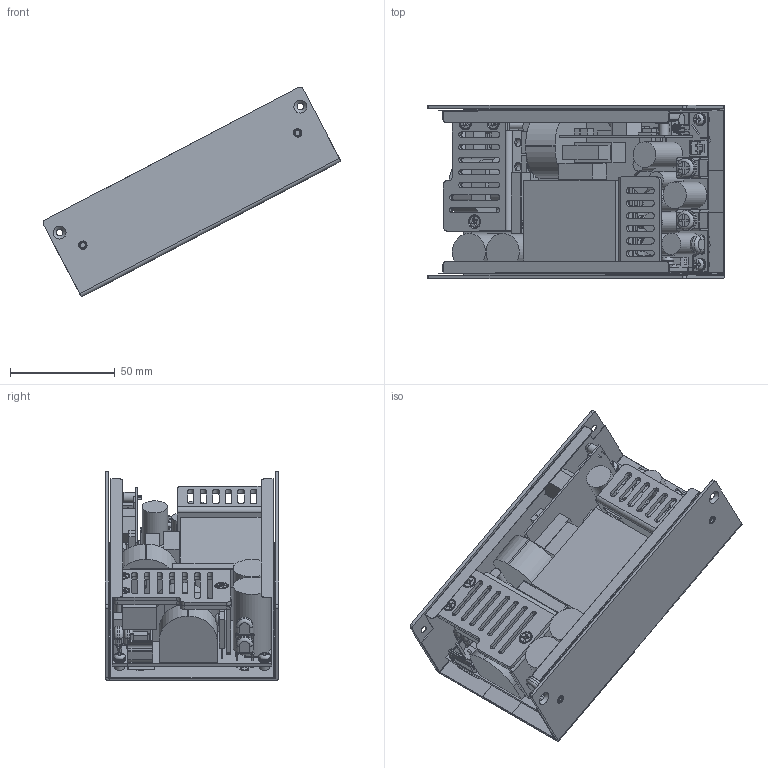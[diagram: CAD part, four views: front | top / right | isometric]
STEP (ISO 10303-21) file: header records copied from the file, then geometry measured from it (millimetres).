
FILE_DESCRIPTION(/* description */ (''),/* implementation_level */ '2;1');
FILE_NAME(/* name */ 'D:\Inventor\3D FILE\MQF500U.stp',/* time_stamp */ '2020-03-13T11:51:03+08:00',/* author */ ('peter'),/* organization */ (''),/* preprocessor_version */ 'ST-DEVELOPER v15.2',/* originating_system */ 'Autodesk Inventor 2014',/* authorisation */ '');
FILE_SCHEMA (('AUTOMOTIVE_DESIGN { 1 0 10303 214 3 1 1 }'));
Products named in the file (45): U CASE 1; M3 x 4r5 mm; M3 - 1r5 mm; PCB - MQF500; R378MQF50001; R378MQF50003; TO-220; TO-220FP; BD1; PH-15; SCREW CH M3_5mm; SCREW PH M3_04mm; HEATSINK - X1 & X3; X2; TO-220_1; TO-220_2; TO-220_3; TO-220_4; INSULATOR 13_19_0.23mm; TW-1; HEATSINK - X2; PCB - MQF500 - M; VR; LED; 2 mm - CN4; 2r5 mm - 2P; A TYPE - IN 2+1P; PCB-50_M5; RT1; Y - C; Y - C_1; Y - C_2; Y - C_3; Y - C_4; Y - C_5; Y - C_6; SCREW CH_W  M5_10mm; MYLAR _ 12.5x12.5x9 mm L TYPE; MYLAR - U CASE 2; SCREW CH_W  M3_6mm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
Bounding box: 142.08 x 82.55 x 100.19 mm (x, y, z)
Volume: 206699 mm3; surface area: 185896 mm2
Topology: 91 solids, 91 shells, 3738 faces, 9489 edges, 6160 vertices
Faces by surface type: plane 2306, bspline 658, cylinder 515, cone 148, torus 100, sphere 11
Full cylindrical faces by diameter (mm): 0.45 x3, 0.5 x1, 0.6 x16, 0.8 x2, 1.6 x5, 1.85 x2, 2.459 x29, 3 x26, 3.1 x4, 3.2 x15, 3.323 x1, 3.33 x1, 3.409 x1, 3.457 x1, 3.5 x1, 3.6 x4, 3.85 x5, 4 x22, 4.134 x2, 4.5 x4, 4.7 x5, 5 x2, 5.045 x1, 5.08 x1, 5.8 x8, 6 x6, 6.085 x1, 6.8 x1, 8.071 x1, 8.136 x1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
Entity records: 94331 total; most frequent: CARTESIAN_POINT 26052, ORIENTED_EDGE 14310, DIRECTION 11495, EDGE_CURVE 7155, LINE 4783, VECTOR 4783, VERTEX_POINT 4745, EDGE_LOOP 3402
